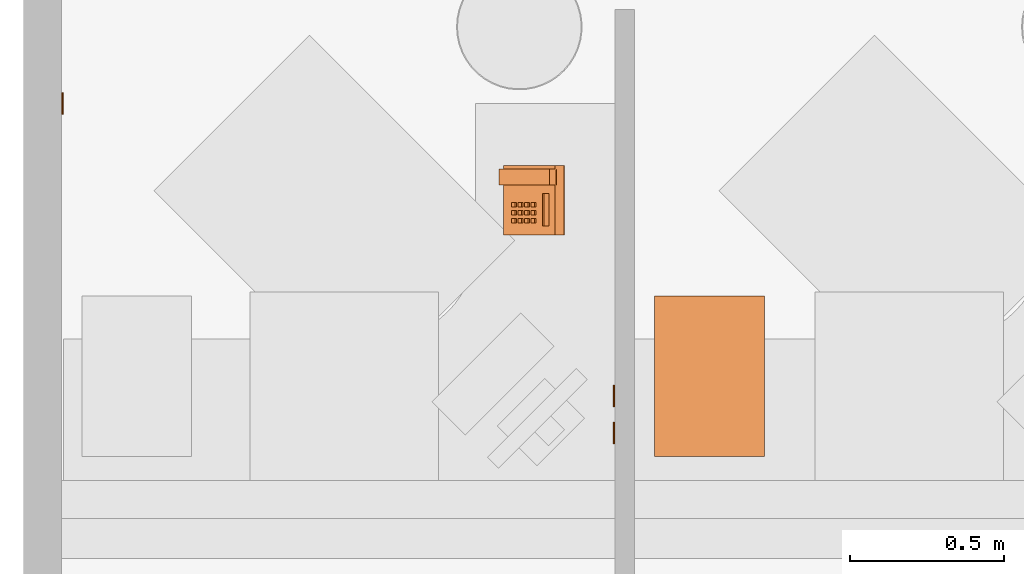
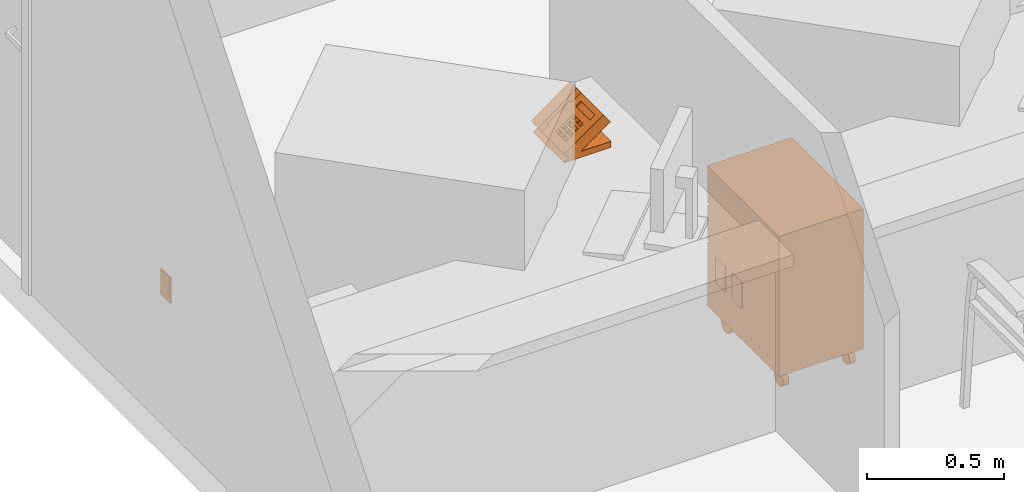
# One storey, part 13 of 20: 5 proxies.
"""IFC2X3 building model written with IfcOpenShell, lengths in feet."""

from ifc_helpers import new_model, entity, si_unit, converted_unit, derived_unit, direction, frame, frame_2d, origin, origin_2d_with_axis, place, context, subcontext, project, spatial, polyline, circle_curve, parameter, trimmed, segment, composite_curve, rectangle, outline, extrude, faceted_brep, source, transform, mapped, type_object, type_shapes, element, save


model = new_model("IFC2X3")

# Units and contexts
model_context = context("Model", 3, precision=0.0001, world=origin(), true_north=direction((6.12303176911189e-17, 1.0)))
body_context = subcontext(model_context, "Body", "Model", "MODEL_VIEW")
ifc_project = project(units=[converted_unit("LENGTHUNIT", "FOOT", entity("IfcRatioMeasure", 0.3048), si_unit("LENGTHUNIT", "METRE"), dimensions=[1, 0, 0, 0, 0, 0, 0]), converted_unit("AREAUNIT", "SQUARE FOOT", entity("IfcRatioMeasure", 0.09290304), si_unit("AREAUNIT", "SQUARE_METRE"), dimensions=[2, 0, 0, 0, 0, 0, 0]), converted_unit("VOLUMEUNIT", "CUBIC FOOT", entity("IfcRatioMeasure", 0.028316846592), si_unit("VOLUMEUNIT", "CUBIC_METRE"), dimensions=[3, 0, 0, 0, 0, 0, 0]), converted_unit("PLANEANGLEUNIT", "DEGREE", entity("IfcRatioMeasure", 0.0174532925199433), si_unit("PLANEANGLEUNIT", "RADIAN"), dimensions=[0, 0, 0, 0, 0, 0, 0]), si_unit("MASSUNIT", "GRAM", prefix="KILO"), derived_unit("MASSDENSITYUNIT", [(si_unit("MASSUNIT", "GRAM", prefix="KILO"), 1), (si_unit("LENGTHUNIT", "METRE"), -3)]), si_unit("TIMEUNIT", "SECOND"), si_unit("FREQUENCYUNIT", "HERTZ"), si_unit("THERMODYNAMICTEMPERATUREUNIT", "DEGREE_CELSIUS"), derived_unit("THERMALTRANSMITTANCEUNIT", [(si_unit("MASSUNIT", "GRAM", prefix="KILO"), 1), (si_unit("THERMODYNAMICTEMPERATUREUNIT", "KELVIN"), -1), (si_unit("TIMEUNIT", "SECOND"), -3)]), derived_unit("VOLUMETRICFLOWRATEUNIT", [(si_unit("LENGTHUNIT", "METRE"), 3), (si_unit("TIMEUNIT", "SECOND"), -1)]), si_unit("ELECTRICCURRENTUNIT", "AMPERE"), si_unit("ELECTRICVOLTAGEUNIT", "VOLT"), si_unit("POWERUNIT", "WATT"), si_unit("FORCEUNIT", "NEWTON"), si_unit("ILLUMINANCEUNIT", "LUX"), si_unit("LUMINOUSFLUXUNIT", "LUMEN"), si_unit("LUMINOUSINTENSITYUNIT", "CANDELA"), derived_unit("USERDEFINED", [(si_unit("MASSUNIT", "GRAM", prefix="KILO"), -1), (si_unit("LENGTHUNIT", "METRE"), -2), (si_unit("TIMEUNIT", "SECOND"), 3), (si_unit("LUMINOUSFLUXUNIT", "LUMEN"), 1)]), derived_unit("LINEARVELOCITYUNIT", [(si_unit("LENGTHUNIT", "METRE"), 1), (si_unit("TIMEUNIT", "SECOND"), -1)]), si_unit("PRESSUREUNIT", "PASCAL"), derived_unit("USERDEFINED", [(si_unit("LENGTHUNIT", "METRE"), -2), (si_unit("MASSUNIT", "GRAM", prefix="KILO"), 1), (si_unit("TIMEUNIT", "SECOND"), -2)])], contexts=[model_context])

# Site, building, storey, space
site_placement = place(None, origin())
site = spatial("IfcSite", under=ifc_project, at=site_placement, Name="Default", CompositionType="ELEMENT")
building_placement = place(site_placement, origin())
building = spatial("IfcBuilding", under=site, at=building_placement, Name="OUTPATIENT / PACT CLINIC (Ch. 265)", CompositionType="ELEMENT")
storey_placement = place(building_placement, origin())
storey = spatial("IfcBuildingStorey", under=building, at=storey_placement, Name="DATUM", CompositionType="ELEMENT", Elevation=0.0)
space_placement = place(storey_placement, origin())
space = spatial("IfcSpace", under=storey, at=space_placement, Name="RCP03", CompositionType="ELEMENT", InteriorOrExteriorSpace="INTERNAL")

# Proxies
building_element_proxy_type_1 = type_object("IfcBuildingElementProxyType", Name="A1015 Telephone_Desk Multi-Line", PredefinedType="NOTDEFINED")
shared_shape_1 = source(origin(), body_context, "Body", "Brep", [
    faceted_brep([(0.700520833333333, 0.261320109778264, 0.451787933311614), (0.700520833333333, 0.572560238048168, 0.223329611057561), (0.700520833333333, 0.538332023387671, 0.176698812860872), (0.700520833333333, 0.629478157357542, 0.109798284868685), (0.700520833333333, 0.699689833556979, 0.205455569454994), (0.700520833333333, 0.163563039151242, 0.598968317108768), (0.700520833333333, 0.0904130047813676, 0.494499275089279), (0.700520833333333, 0.225161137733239, 0.400147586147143), (0.532645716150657, 0.261320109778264, 0.451787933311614), (0.532645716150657, 0.225161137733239, 0.400147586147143), (0.532645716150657, 0.0904130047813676, 0.494499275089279), (0.532645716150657, 0.163563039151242, 0.598968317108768), (0.532645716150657, 0.699689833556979, 0.205455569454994), (0.532645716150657, 0.629478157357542, 0.109798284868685), (0.532645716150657, 0.538332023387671, 0.176698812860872), (0.532645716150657, 0.572560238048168, 0.223329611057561)], [[[0, 1, 2, 3, 4, 5, 6, 7]], [[8, 9, 10, 11, 12, 13, 14, 15]], [[1, 0, 8, 15]], [[2, 1, 15, 14]], [[3, 2, 14, 13]], [[4, 3, 13, 12]], [[5, 4, 12, 11]], [[6, 5, 11, 10]], [[7, 6, 10, 9]], [[0, 7, 9, 8]]]),
    faceted_brep([(0.297587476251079, 0.457472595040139, 0.295395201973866), (0.344462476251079, 0.457472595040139, 0.295395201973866), (0.344462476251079, 0.49615327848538, 0.268310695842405), (0.297587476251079, 0.49615327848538, 0.268310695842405), (0.297587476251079, 0.442535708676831, 0.274063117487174), (0.297587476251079, 0.481216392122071, 0.246978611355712), (0.344462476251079, 0.481216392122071, 0.246978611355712), (0.344462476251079, 0.442535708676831, 0.274063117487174)], [[[0, 1, 2, 3]], [[4, 5, 6, 7]], [[1, 0, 4, 7]], [[2, 1, 7, 6]], [[3, 2, 6, 5]], [[0, 3, 5, 4]]]),
    faceted_brep([(0.29758747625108, 0.525735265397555, 0.247597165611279), (0.34446247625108, 0.525735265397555, 0.247597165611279), (0.34446247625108, 0.564415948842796, 0.220512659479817), (0.29758747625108, 0.564415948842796, 0.220512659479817), (0.29758747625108, 0.510798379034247, 0.226265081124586), (0.29758747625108, 0.549479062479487, 0.199180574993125), (0.34446247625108, 0.549479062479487, 0.199180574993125), (0.34446247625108, 0.510798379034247, 0.226265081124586)], [[[0, 1, 2, 3]], [[4, 5, 6, 7]], [[1, 0, 4, 7]], [[2, 1, 7, 6]], [[3, 2, 6, 5]], [[0, 3, 5, 4]]]),
    faceted_brep([(0.214254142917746, 0.525735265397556, 0.247597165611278), (0.261129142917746, 0.525735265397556, 0.247597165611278), (0.261129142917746, 0.564415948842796, 0.220512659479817), (0.214254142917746, 0.564415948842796, 0.220512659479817), (0.214254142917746, 0.510798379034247, 0.226265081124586), (0.214254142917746, 0.549479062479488, 0.199180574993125), (0.261129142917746, 0.549479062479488, 0.199180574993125), (0.261129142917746, 0.510798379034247, 0.226265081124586)], [[[0, 1, 2, 3]], [[4, 5, 6, 7]], [[1, 0, 4, 7]], [[2, 1, 7, 6]], [[3, 2, 6, 5]], [[0, 3, 5, 4]]]),
    faceted_brep([(0.130920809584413, 0.525735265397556, 0.247597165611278), (0.177795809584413, 0.525735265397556, 0.247597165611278), (0.177795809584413, 0.564415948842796, 0.220512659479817), (0.130920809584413, 0.564415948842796, 0.220512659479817), (0.130920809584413, 0.510798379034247, 0.226265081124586), (0.130920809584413, 0.549479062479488, 0.199180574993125), (0.177795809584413, 0.549479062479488, 0.199180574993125), (0.177795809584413, 0.510798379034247, 0.226265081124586)], [[[0, 1, 2, 3]], [[4, 5, 6, 7]], [[1, 0, 4, 7]], [[2, 1, 7, 6]], [[3, 2, 6, 5]], [[0, 3, 5, 4]]]),
    faceted_brep([(0.130920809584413, 0.45747259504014, 0.295395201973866), (0.177795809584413, 0.45747259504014, 0.295395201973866), (0.177795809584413, 0.496153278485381, 0.268310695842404), (0.130920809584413, 0.496153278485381, 0.268310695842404), (0.130920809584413, 0.442535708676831, 0.274063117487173), (0.130920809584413, 0.481216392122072, 0.246978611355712), (0.177795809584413, 0.481216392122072, 0.246978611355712), (0.177795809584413, 0.442535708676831, 0.274063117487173)], [[[0, 1, 2, 3]], [[4, 5, 6, 7]], [[1, 0, 4, 7]], [[2, 1, 7, 6]], [[3, 2, 6, 5]], [[0, 3, 5, 4]]]),
    faceted_brep([(0.214254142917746, 0.389209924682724, 0.343193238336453), (0.261129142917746, 0.389209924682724, 0.343193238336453), (0.261129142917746, 0.427890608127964, 0.316108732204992), (0.214254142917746, 0.427890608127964, 0.316108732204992), (0.214254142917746, 0.374273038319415, 0.321861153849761), (0.214254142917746, 0.412953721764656, 0.2947766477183), (0.261129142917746, 0.412953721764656, 0.2947766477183), (0.261129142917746, 0.374273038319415, 0.321861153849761)], [[[0, 1, 2, 3]], [[4, 5, 6, 7]], [[1, 0, 4, 7]], [[2, 1, 7, 6]], [[3, 2, 6, 5]], [[0, 3, 5, 4]]]),
    faceted_brep([(0.130920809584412, 0.389209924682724, 0.343193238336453), (0.177795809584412, 0.389209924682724, 0.343193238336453), (0.177795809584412, 0.427890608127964, 0.316108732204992), (0.130920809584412, 0.427890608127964, 0.316108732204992), (0.130920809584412, 0.374273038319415, 0.321861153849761), (0.130920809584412, 0.412953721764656, 0.2947766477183), (0.177795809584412, 0.412953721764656, 0.2947766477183), (0.177795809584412, 0.374273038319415, 0.321861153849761)], [[[0, 1, 2, 3]], [[4, 5, 6, 7]], [[1, 0, 4, 7]], [[2, 1, 7, 6]], [[3, 2, 6, 5]], [[0, 3, 5, 4]]]),
    faceted_brep([(0.214254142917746, 0.457472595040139, 0.295395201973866), (0.261129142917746, 0.457472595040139, 0.295395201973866), (0.261129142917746, 0.49615327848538, 0.268310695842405), (0.214254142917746, 0.49615327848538, 0.268310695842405), (0.214254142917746, 0.442535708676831, 0.274063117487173), (0.214254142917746, 0.481216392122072, 0.246978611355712), (0.261129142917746, 0.481216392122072, 0.246978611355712), (0.261129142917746, 0.442535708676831, 0.274063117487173)], [[[0, 1, 2, 3]], [[4, 5, 6, 7]], [[1, 0, 4, 7]], [[2, 1, 7, 6]], [[3, 2, 6, 5]], [[0, 3, 5, 4]]]),
    faceted_brep([(0.297587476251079, 0.389209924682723, 0.343193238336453), (0.344462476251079, 0.389209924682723, 0.343193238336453), (0.344462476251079, 0.427890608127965, 0.316108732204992), (0.297587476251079, 0.427890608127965, 0.316108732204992), (0.297587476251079, 0.374273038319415, 0.321861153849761), (0.297587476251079, 0.412953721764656, 0.294776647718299), (0.344462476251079, 0.412953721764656, 0.294776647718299), (0.344462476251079, 0.374273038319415, 0.321861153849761)], [[[0, 1, 2, 3]], [[4, 5, 6, 7]], [[1, 0, 4, 7]], [[2, 1, 7, 6]], [[3, 2, 6, 5]], [[0, 3, 5, 4]]]),
    faceted_brep([(0.130920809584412, 0.320947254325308, 0.39099127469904), (0.177795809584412, 0.320947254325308, 0.39099127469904), (0.177795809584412, 0.359627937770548, 0.363906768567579), (0.130920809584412, 0.359627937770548, 0.363906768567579), (0.130920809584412, 0.306010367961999, 0.369659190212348), (0.130920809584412, 0.34469105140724, 0.342574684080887), (0.177795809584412, 0.34469105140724, 0.342574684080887), (0.177795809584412, 0.306010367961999, 0.369659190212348)], [[[0, 1, 2, 3]], [[4, 5, 6, 7]], [[1, 0, 4, 7]], [[2, 1, 7, 6]], [[3, 2, 6, 5]], [[0, 3, 5, 4]]]),
    faceted_brep([(0.214254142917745, 0.320947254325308, 0.39099127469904), (0.261129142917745, 0.320947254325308, 0.39099127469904), (0.261129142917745, 0.359627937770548, 0.363906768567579), (0.214254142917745, 0.359627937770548, 0.363906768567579), (0.214254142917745, 0.306010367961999, 0.369659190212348), (0.214254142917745, 0.34469105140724, 0.342574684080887), (0.261129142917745, 0.34469105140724, 0.342574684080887), (0.261129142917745, 0.306010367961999, 0.369659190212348)], [[[0, 1, 2, 3]], [[4, 5, 6, 7]], [[1, 0, 4, 7]], [[2, 1, 7, 6]], [[3, 2, 6, 5]], [[0, 3, 5, 4]]]),
    faceted_brep([(0.297587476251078, 0.320947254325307, 0.390991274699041), (0.344462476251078, 0.320947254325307, 0.390991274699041), (0.344462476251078, 0.359627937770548, 0.363906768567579), (0.297587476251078, 0.359627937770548, 0.363906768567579), (0.297587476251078, 0.306010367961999, 0.369659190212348), (0.297587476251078, 0.34469105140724, 0.342574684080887), (0.344462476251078, 0.34469105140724, 0.342574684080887), (0.344462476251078, 0.306010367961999, 0.369659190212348)], [[[0, 1, 2, 3]], [[4, 5, 6, 7]], [[1, 0, 4, 7]], [[2, 1, 7, 6]], [[3, 2, 6, 5]], [[0, 3, 5, 4]]]),
    faceted_brep([(0.739583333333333, 0.584951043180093, 0.0535656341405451), (0.739583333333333, 0.648788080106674, 0.129643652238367), (0.739583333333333, 0.102686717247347, 0.512027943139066), (0.739583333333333, 0.00709064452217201, 0.375502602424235), (0.739583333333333, 0.416666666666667, 0.0887143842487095), (0.739583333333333, 0.0, 0.0887143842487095), (0.739583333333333, 0.0, 0.0), (0.739583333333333, 0.648788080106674, 0.0), (0.0, 0.416666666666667, 0.0887143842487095), (0.0, 0.00709064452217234, 0.375502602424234), (0.0, 0.102686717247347, 0.512027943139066), (0.0, 0.648788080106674, 0.129643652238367), (0.0, 0.584951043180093, 0.0535656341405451), (0.0, 0.648788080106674, 0.0), (0.0, 0.0, 0.0), (0.0, 0.0, 0.0887143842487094), (0.532645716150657, 0.648788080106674, 0.129643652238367), (0.532645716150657, 0.631984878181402, 0.109618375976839), (0.699312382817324, 0.631984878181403, 0.10961837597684), (0.699312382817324, 0.648788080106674, 0.129643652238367), (0.699312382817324, 0.597591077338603, 0.165492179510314), (0.688147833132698, 0.205080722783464, 0.44033088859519), (0.68766856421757, 0.582470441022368, 0.176079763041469), (0.676024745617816, 0.567349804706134, 0.186667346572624), (0.67289677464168, 0.217573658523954, 0.431583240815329), (0.657645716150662, 0.230066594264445, 0.422835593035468), (0.65691415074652, 0.558715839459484, 0.192712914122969), (0.637803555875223, 0.550081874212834, 0.198758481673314), (0.636812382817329, 0.234639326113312, 0.41963373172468), (0.615979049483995, 0.239212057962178, 0.416431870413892), (0.61597904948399, 0.550081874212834, 0.198758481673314), (0.594154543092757, 0.550081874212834, 0.198758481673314), (0.595145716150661, 0.234639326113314, 0.419633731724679), (0.574312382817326, 0.230066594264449, 0.422835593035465), (0.441208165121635, 0.234600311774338, 0.419661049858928), (0.575043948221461, 0.558715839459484, 0.192712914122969), (0.555933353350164, 0.567349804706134, 0.186667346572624), (0.542406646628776, 0.58491555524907, 0.174367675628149), (0.532645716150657, 0.597591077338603, 0.165492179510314), (0.0978645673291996, 0.234600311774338, 0.419661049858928), (0.0978645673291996, 0.166337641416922, 0.467459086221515), (0.532645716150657, 0.102686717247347, 0.512027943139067), (0.441208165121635, 0.166337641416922, 0.467459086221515), (0.532645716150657, 0.170949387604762, 0.46422990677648), (0.538227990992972, 0.188015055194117, 0.452280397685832), (0.543810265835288, 0.205080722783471, 0.440330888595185), (0.559061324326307, 0.21757365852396, 0.431583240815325), (0.693730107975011, 0.188015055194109, 0.452280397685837), (0.699312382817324, 0.170949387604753, 0.464229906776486), (0.699312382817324, 0.102686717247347, 0.512027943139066), (0.699312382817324, 0.0877498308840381, 0.490695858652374), (0.532645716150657, 0.0877498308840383, 0.490695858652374), (0.0978645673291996, 0.151400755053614, 0.446127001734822), (0.441208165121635, 0.151400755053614, 0.446127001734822), (0.441208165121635, 0.219663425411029, 0.398328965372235), (0.0978645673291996, 0.219663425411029, 0.398328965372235), (0.597435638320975, 0.222563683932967, 0.396298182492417), (0.580728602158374, 0.215973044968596, 0.400912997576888), (0.564021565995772, 0.209382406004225, 0.40552781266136), (0.55245993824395, 0.197506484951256, 0.413843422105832), (0.540898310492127, 0.185630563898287, 0.422159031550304), (0.536626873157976, 0.170300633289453, 0.432893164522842), (0.532645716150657, 0.156012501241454, 0.442897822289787), (0.699312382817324, 0.156012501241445, 0.442897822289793), (0.695331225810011, 0.170300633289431, 0.432893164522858), (0.691059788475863, 0.18563056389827, 0.422159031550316), (0.679498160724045, 0.197506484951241, 0.413843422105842), (0.667936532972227, 0.209382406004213, 0.405527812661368), (0.651229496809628, 0.215973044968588, 0.400912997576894), (0.634522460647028, 0.222563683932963, 0.39629818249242), (0.615979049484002, 0.222563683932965, 0.396298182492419), (0.532645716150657, 0.582654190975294, 0.144160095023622), (0.54428953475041, 0.56753355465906, 0.154747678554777), (0.555933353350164, 0.552412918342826, 0.165335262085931), (0.575043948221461, 0.543778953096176, 0.171380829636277), (0.594154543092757, 0.535144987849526, 0.177426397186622), (0.61597904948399, 0.535144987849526, 0.177426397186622), (0.637803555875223, 0.535144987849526, 0.177426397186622), (0.65691415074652, 0.543778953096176, 0.171380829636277), (0.676024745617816, 0.552412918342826, 0.165335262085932), (0.689551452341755, 0.569978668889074, 0.153035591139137), (0.699312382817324, 0.582654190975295, 0.144160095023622)], [[[0, 1, 2, 3, 4, 5, 6, 7]], [[8, 9, 10, 11, 12, 13, 14, 15]], [[0, 7, 13, 12]], [[0, 12, 11, 16, 17, 18, 19, 1]], [[1, 19, 20]], [[21, 1, 20]], [[2, 1, 21]], [[21, 20, 22]], [[21, 22, 23]], [[23, 24, 21]], [[23, 25, 24]], [[25, 23, 26]], [[25, 26, 27]], [[27, 28, 25]], [[27, 29, 28]], [[29, 27, 30]], [[29, 30, 31]], [[31, 32, 29]], [[31, 33, 32]], [[34, 33, 31]], [[34, 31, 35]], [[34, 35, 36]], [[34, 36, 37]], [[34, 37, 38]], [[38, 39, 34]], [[39, 38, 11]], [[38, 16, 11]], [[39, 11, 10]], [[10, 40, 39]], [[10, 41, 40]], [[40, 41, 42]], [[42, 41, 43]], [[42, 43, 44]], [[42, 44, 45]], [[34, 45, 46]], [[42, 45, 34]], [[34, 46, 33]], [[2, 21, 47]], [[2, 47, 48]], [[2, 48, 49]], [[2, 49, 50, 51, 41, 10, 9, 3]], [[4, 3, 9, 8]], [[5, 4, 8, 15]], [[6, 5, 15, 14]], [[7, 6, 14, 13]], [[52, 53, 54, 55]], [[56, 57, 58, 59, 60, 61, 62, 51, 50, 63, 64, 65, 66, 67, 68, 69, 70]], [[17, 71, 72, 73, 74, 75, 76, 77, 78, 79, 80, 81, 18]], [[52, 40, 42, 53]], [[54, 53, 42, 34]], [[54, 34, 39, 55]], [[55, 39, 40, 52]], [[50, 49, 48, 63]], [[18, 81, 20, 19]], [[64, 63, 48]], [[56, 29, 32]], [[33, 57, 32]], [[66, 24, 67]], [[64, 47, 65]], [[21, 65, 47]], [[28, 68, 25]], [[65, 21, 66]], [[68, 28, 69]], [[47, 64, 48]], [[56, 32, 57]], [[45, 60, 59]], [[45, 59, 46]], [[56, 70, 69, 29]], [[33, 58, 57]], [[45, 44, 60]], [[43, 62, 61]], [[33, 46, 58]], [[24, 66, 21]], [[58, 46, 59]], [[44, 43, 61]], [[24, 25, 67]], [[29, 69, 28]], [[68, 67, 25]], [[61, 60, 44]], [[62, 43, 41, 51]], [[17, 16, 38, 71]], [[73, 72, 71, 38, 37, 36]], [[20, 81, 80, 79, 23, 22]], [[36, 35, 31, 75, 74, 73]], [[77, 76, 75, 31, 30, 27]], [[27, 26, 23, 79, 78, 77]]]),
])
type_shapes(building_element_proxy_type_1, [shared_shape_1])
proxy_1_placement = place(space_placement, frame((61.6056098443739, -862.322290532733, 2.49999999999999), z_axis=(0.0, 0.0, 1.0), x_axis=(0.0, 1.0, 0.0)))
element("IfcBuildingElementProxy", 1, at=proxy_1_placement, inside=space, type_object=building_element_proxy_type_1, Name="A1015 - Telephone, Desk, Multiple Line:A1015 Telephone_Desk Multi-Line", ObjectType="A1015 Telephone_Desk Multi-Line", context=body_context, shape_type="MappedRepresentation", body=[
    mapped(shared_shape_1, transform((0.0, 0.0, 0.0), scale=1.0)),
])
building_element_proxy_type_2 = type_object("IfcBuildingElementProxyType", Name="Duplex", PredefinedType="NOTDEFINED")
shared_shape_2 = source(origin(), body_context, "Body", "SweptSolid", [
    extrude(rectangle(XDim=0.0156249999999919, YDim=0.229166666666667, at=origin_2d_with_axis()), frame((0.0, 0.210937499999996, 0.0), z_axis=(0.0, 0.0, 1.0), x_axis=(0.0, 1.0, 0.0)), (0.0, 0.0, 1.0), 0.37500000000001),
])
type_shapes(building_element_proxy_type_2, [shared_shape_2])
proxy_2_placement = place(space_placement, frame((56.0609884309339, -860.924839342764, 1.3125), z_axis=(0.0, 0.0, 1.0), x_axis=(0.0, -1.0, 0.0)))
element("IfcBuildingElementProxy", 2, at=proxy_2_placement, inside=space, type_object=building_element_proxy_type_2, Name="Outlet, Duplex, Wall:Duplex", ObjectType="Duplex", context=body_context, shape_type="MappedRepresentation", body=[
    mapped(shared_shape_2, transform((0.0, 0.0, 0.0), scale=1.0)),
])
building_element_proxy_type_3 = type_object("IfcBuildingElementProxyType", Name="Duplex", PredefinedType="NOTDEFINED")
shared_shape_3 = source(origin(), body_context, "Body", "SweptSolid", [
    extrude(rectangle(XDim=0.229166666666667, YDim=0.0156249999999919, at=origin_2d_with_axis()), frame((0.0, -0.111979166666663, 0.0), z_axis=(0.0, 0.0, 1.0), x_axis=(-1.0, 0.0, 0.0)), (0.0, 0.0, 1.0), 0.37500000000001),
])
type_shapes(building_element_proxy_type_3, [shared_shape_3])
proxy_3_placement = place(space_placement, frame((62.2432800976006, -864.424839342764, 1.3125), z_axis=(0.0, 0.0, 1.0), x_axis=(0.0, -1.0, 0.0)))
element("IfcBuildingElementProxy", 3, at=proxy_3_placement, inside=space, type_object=building_element_proxy_type_3, Name="Outlet, Duplex, Wall:Duplex", ObjectType="Duplex", context=body_context, shape_type="MappedRepresentation", body=[
    mapped(shared_shape_3, transform((0.0, 0.0, 0.0), scale=1.0)),
])
building_element_proxy_type_4 = type_object("IfcBuildingElementProxyType", Name="Telephone/Data", PredefinedType="NOTDEFINED")
shared_shape_4 = source(origin(), body_context, "Body", "SweptSolid", [
    extrude(rectangle(XDim=0.229166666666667, YDim=0.0156249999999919, at=origin_2d_with_axis()), frame((0.0, -0.111979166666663, 0.0), z_axis=(0.0, 0.0, 1.0), x_axis=(-1.0, 0.0, 0.0)), (0.0, 0.0, 1.0), 0.375),
])
type_shapes(building_element_proxy_type_4, [shared_shape_4])
proxy_4_placement = place(space_placement, frame((62.2432800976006, -864.02900600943, 1.3125), z_axis=(0.0, 0.0, 1.0), x_axis=(0.0, -1.0, 0.0)))
element("IfcBuildingElementProxy", 4, at=proxy_4_placement, inside=space, type_object=building_element_proxy_type_4, Name="Outlet, Communications:Telephone/Data", ObjectType="Telephone/Data", context=body_context, shape_type="MappedRepresentation", body=[
    mapped(shared_shape_4, transform((0.0, 0.0, 0.0), scale=1.0)),
])
building_element_proxy_type_5 = type_object("IfcBuildingElementProxyType", Name="F0404 - Pedestal File Mobile", PredefinedType="NOTDEFINED")
shared_shape_5 = source(origin(), body_context, "Body", "SweptSolid", [
    extrude(outline(polyline([(-0.583333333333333, -0.458333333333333), (0.583333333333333, -0.458333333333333), (0.583333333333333, 0.458333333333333), (-0.583333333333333, 0.458333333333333), (-0.583333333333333, -0.458333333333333)]), holes=[polyline([(0.33333333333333, 0.3125), (-0.333333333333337, 0.3125), (-0.333333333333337, 0.375), (0.33333333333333, 0.375), (0.33333333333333, 0.3125)])]), frame((0.0, -1.70833333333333, 0.708333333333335), z_axis=(0.0, 1.0, 0.0), x_axis=(-1.0, 0.0, 0.0)), (0.0, 0.0, 1.0), 0.0416666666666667),
    extrude(outline(polyline([(-0.583333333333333, -0.25), (0.583333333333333, -0.25), (0.583333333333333, 0.25), (-0.583333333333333, 0.25), (-0.583333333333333, -0.25)]), holes=[polyline([(0.333333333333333, 0.104166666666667), (-0.333333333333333, 0.104166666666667), (-0.333333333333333, 0.166666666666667), (0.333333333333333, 0.166666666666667), (0.333333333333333, 0.104166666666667)])]), frame((0.0, -1.70833333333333, 2.0), z_axis=(0.0, 1.0, 0.0), x_axis=(-1.0, 0.0, 0.0)), (0.0, 0.0, 1.0), 0.0416666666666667),
    extrude(outline(polyline([(-0.583333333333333, -0.25), (0.583333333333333, -0.25), (0.583333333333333, 0.25), (-0.583333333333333, 0.25), (-0.583333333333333, -0.25)]), holes=[polyline([(0.333333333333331, 0.104166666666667), (-0.333333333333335, 0.104166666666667), (-0.333333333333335, 0.166666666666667), (0.333333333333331, 0.166666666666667), (0.333333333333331, 0.104166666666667)])]), frame((0.0, -1.70833333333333, 1.45833333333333), z_axis=(0.0, 1.0, 0.0), x_axis=(-1.0, 0.0, 0.0)), (0.0, 0.0, 1.0), 0.0416666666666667),
    extrude(outline(polyline([(-0.541666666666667, -1.34722222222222), (1.125, -1.34722222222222), (1.125, 0.69444444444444), (-0.583333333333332, 0.694444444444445), (-0.583333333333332, 0.652777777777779), (-0.541666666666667, 0.652777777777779), (-0.541666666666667, -1.34722222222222)])), frame((-0.583333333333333, -1.125, 1.59722222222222), z_axis=(1.0, 0.0, 0.0), x_axis=(0.0, 1.0, 0.0)), (0.0, 0.0, 1.0), 1.16666666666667),
    extrude(outline(composite_curve([segment(polyline([(0.00520833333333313, -0.0520833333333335), (0.0468749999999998, -0.0520833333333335)]), True, "CONTINUOUS"), segment(polyline([(0.0468749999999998, -0.0520833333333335), (0.046875, 0.0520833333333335)]), True, "CONTINUOUS"), segment(polyline([(0.046875, 0.0520833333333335), (-0.0989583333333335, 0.0520833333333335)]), True, "CONTINUOUS"), segment(trimmed(circle_curve(frame_2d((-0.0989583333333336, -0.0520833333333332), x_axis=(0.0, 1.0)), 0.104166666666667), [parameter(360.0)], [parameter(270.0)], True, "PARAMETER"), True, "CONTINUOUS")], self_intersect=False)), frame((0.416666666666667, -0.197916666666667, 0.203125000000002), z_axis=(1.0, 0.0, 0.0), x_axis=(0.0, 0.0, 1.0)), (0.0, 0.0, 1.0), 0.0833333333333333),
    extrude(outline(composite_curve([segment(polyline([(0.00520833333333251, -0.052083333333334), (0.0468749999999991, -0.052083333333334)]), True, "CONTINUOUS"), segment(polyline([(0.0468749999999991, -0.052083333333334), (0.0468750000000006, 0.0520833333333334)]), True, "CONTINUOUS"), segment(polyline([(0.0468750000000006, 0.0520833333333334), (-0.0989583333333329, 0.052083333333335)]), True, "CONTINUOUS"), segment(trimmed(circle_curve(frame_2d((-0.0989583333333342, -0.0520833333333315), x_axis=(0.0, 1.0)), 0.104166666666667), [parameter(360.0)], [parameter(269.999999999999)], True, "PARAMETER"), True, "CONTINUOUS")], self_intersect=False)), frame((0.416666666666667, -1.46875, 0.203125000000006), z_axis=(1.0, 0.0, 0.0), x_axis=(0.0, 0.0, 1.0)), (0.0, 0.0, 1.0), 0.0833333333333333),
    extrude(outline(composite_curve([segment(polyline([(0.00520833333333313, -0.0520833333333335), (0.0468749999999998, -0.0520833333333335)]), True, "CONTINUOUS"), segment(polyline([(0.0468749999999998, -0.0520833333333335), (0.046875, 0.0520833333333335)]), True, "CONTINUOUS"), segment(polyline([(0.046875, 0.0520833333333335), (-0.0989583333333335, 0.0520833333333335)]), True, "CONTINUOUS"), segment(trimmed(circle_curve(frame_2d((-0.0989583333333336, -0.0520833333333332), x_axis=(0.0, 1.0)), 0.104166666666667), [parameter(360.0)], [parameter(270.0)], True, "PARAMETER"), True, "CONTINUOUS")], self_intersect=False)), frame((-0.5, -0.197916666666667, 0.203125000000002), z_axis=(1.0, 0.0, 0.0), x_axis=(0.0, 0.0, 1.0)), (0.0, 0.0, 1.0), 0.0833333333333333),
    extrude(outline(composite_curve([segment(polyline([(0.00520833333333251, -0.052083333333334), (0.0468749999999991, -0.052083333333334)]), True, "CONTINUOUS"), segment(polyline([(0.0468749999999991, -0.052083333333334), (0.0468750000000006, 0.0520833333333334)]), True, "CONTINUOUS"), segment(polyline([(0.0468750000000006, 0.0520833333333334), (-0.0989583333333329, 0.052083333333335)]), True, "CONTINUOUS"), segment(trimmed(circle_curve(frame_2d((-0.0989583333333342, -0.0520833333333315), x_axis=(0.0, 1.0)), 0.104166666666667), [parameter(360.0)], [parameter(269.999999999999)], True, "PARAMETER"), True, "CONTINUOUS")], self_intersect=False)), frame((-0.5, -1.46875, 0.203125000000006), z_axis=(1.0, 0.0, 0.0), x_axis=(0.0, 0.0, 1.0)), (0.0, 0.0, 1.0), 0.0833333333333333),
])
type_shapes(building_element_proxy_type_5, [shared_shape_5])
proxy_5_placement = place(space_placement, frame((63.1443217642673, -864.674839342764, 0.0), z_axis=(0.0, 0.0, 1.0), x_axis=(-1.0, 0.0, 0.0)))
element("IfcBuildingElementProxy", 5, at=proxy_5_placement, inside=space, type_object=building_element_proxy_type_5, Name="F0404 - Pedestal File Mobile:F0404 - Pedestal File Mobile", ObjectType="F0404 - Pedestal File Mobile", context=body_context, shape_type="MappedRepresentation", body=[
    mapped(shared_shape_5, transform((0.0, 0.0, 0.0), scale=1.0)),
])

save(model, "model.ifc")
